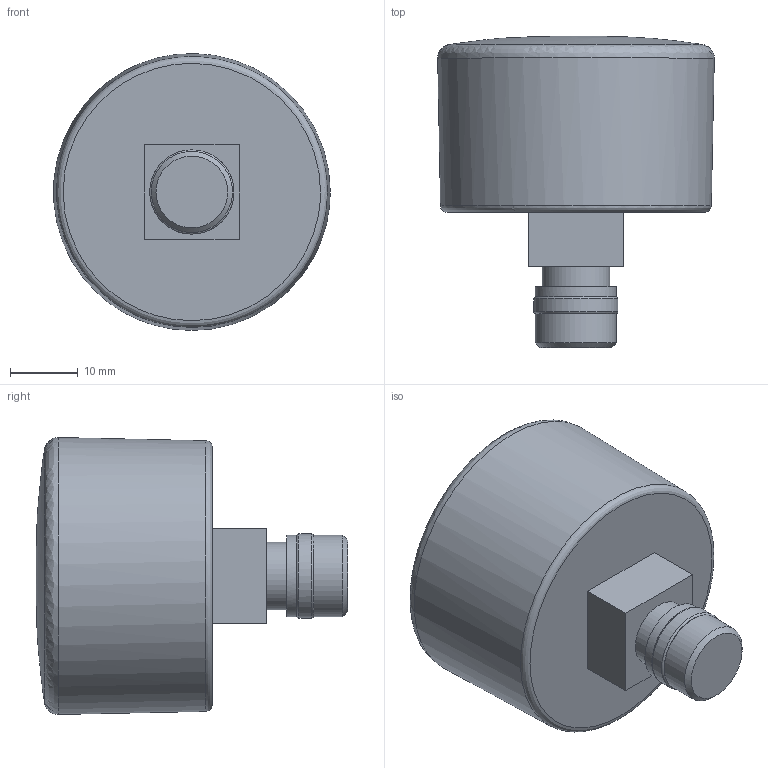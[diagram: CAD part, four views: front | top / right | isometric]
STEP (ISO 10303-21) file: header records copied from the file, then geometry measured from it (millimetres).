
FILE_DESCRIPTION((''),'2;1');
FILE_NAME('U:\Users\a.heinl\Manometer_Export_m_Dichtung.stp', '2013-05-13T08:08:08',('User'),('SDRC'),'I-DEAS Master Series 9','UNIX', 'Yes');
FILE_SCHEMA(('AUTOMOTIVE_DESIGN { 1 0 10303 214 1 1 1 1 }'));
Length unit declared in the file: millimetre
Products named in the file (1): 11356300
Bounding box: 40.88 x 46 x 40.93 mm (x, y, z)
Volume: 35840.9 mm3; surface area: 6542.3 mm2
Topology: 1 solids, 1 shells, 22 faces, 47 edges, 41 vertices
Faces by surface type: bspline 22
Entity records: 792 total; most frequent: CARTESIAN_POINT 448, ORIENTED_EDGE 78, EDGE_CURVE 39, EDGE_LOOP 27, VERTEX_POINT 24, FACE_OUTER_BOUND 22, ADVANCED_FACE 22, QUASI_UNIFORM_CURVE 20
